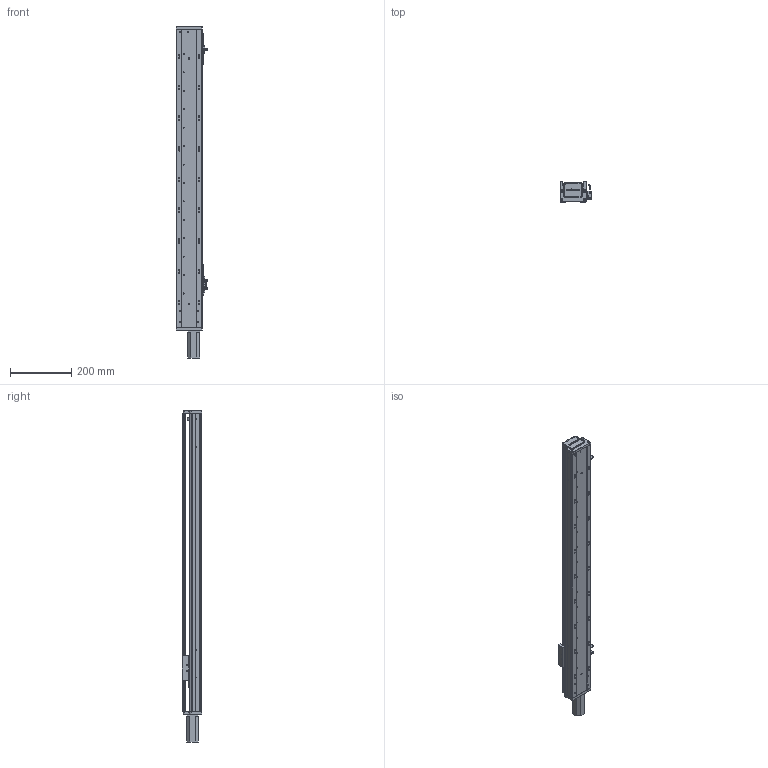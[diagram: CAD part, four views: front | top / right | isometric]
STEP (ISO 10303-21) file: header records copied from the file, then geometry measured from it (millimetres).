
FILE_DESCRIPTION (( 'STEP AP203' ), '1' );
FILE_NAME ('RY80-L1620-300-MK(100W).SLDASM_750.step', '2021-02-20T02:20:01', ( '' ), ( '' ), 'SwSTEP 2.0', 'SolidWorks 2012', '' );
FILE_SCHEMA (( 'CONFIG_CONTROL_DESIGN' ));
Length unit declared in the file: millimetre
Products named in the file (12): RY80-L1620-300-MK(100W).SLDASM_750; 滅袉蝶18-24; 侂狟100W; RY80俋离覜茼え; 672嫖萇羲壽假蚾釱; 覜茼ん672; 滅袉蝶18-10; RY80-300-MK倰第奻裔啣_750; RY80前盖板(100W电机)M3; RY80綴裔啣; RY80-300-MK倰第菁釱_750; RY80臏賑輸
Assembly tree (14 placements, depth 2):
  RY80-L1620-300-MK(100W).SLDASM_750
    RY80-300-MK倰第菁釱_750
    RY80臏賑輸
    RY80-300-MK倰第奻裔啣_750
    RY80前盖板(100W电机)M3
    RY80綴裔啣
    滅袉蝶18-10
    672嫖萇羲壽假蚾釱  x2
    覜茼ん672  x3
    RY80俋离覜茼え
    滅袉蝶18-24
    侂狟100W
Bounding box: 103.7 x 65 x 1081 mm (x, y, z)
Volume: 1579188 mm3; surface area: 667849.5 mm2
Topology: 14 solids, 14 shells, 1669 faces, 4699 edges, 3069 vertices
Faces by surface type: plane 924, cylinder 636, cone 75, bspline 34
Entity records: 53350 total; most frequent: CARTESIAN_POINT 14653, ORIENTED_EDGE 8166, DIRECTION 7206, EDGE_CURVE 4083, VERTEX_POINT 2685, VECTOR 2434, LINE 2434, AXIS2_PLACEMENT_3D 2386
